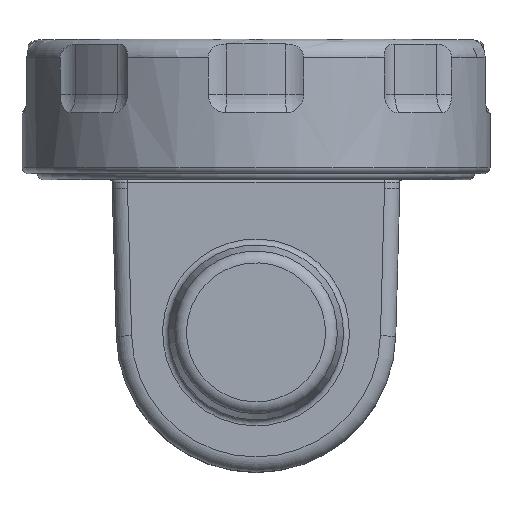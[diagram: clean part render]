
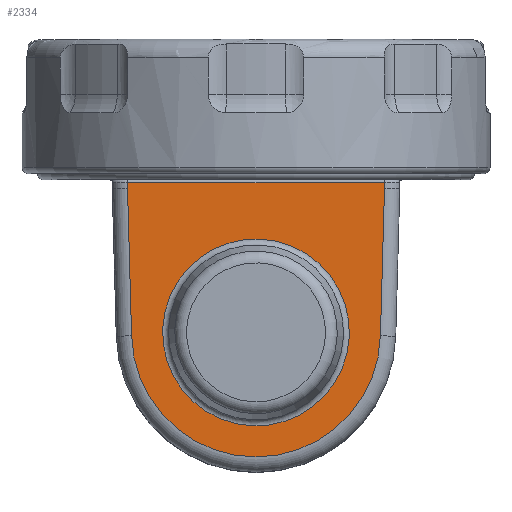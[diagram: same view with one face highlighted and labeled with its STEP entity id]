
A CAD part, top view. The second image highlights one B-rep face of the part: STEP entity #2334.
In plain terms, the highlighted planar face has unit normal (0, 0, 1).
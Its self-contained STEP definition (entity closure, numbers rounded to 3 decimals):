
#132=FACE_BOUND('',#410,.T.);
#151=PLANE('',#2635);
#266=FACE_OUTER_BOUND('',#409,.T.);
#409=EDGE_LOOP('',(#1907,#1908,#1909,#1910,#1911,#1912,#1913,#1914));
#410=EDGE_LOOP('',(#1915));
#454=LINE('',#3498,#566);
#456=LINE('',#3504,#568);
#460=LINE('',#3515,#572);
#529=LINE('',#4343,#641);
#530=LINE('',#4345,#642);
#531=LINE('',#4349,#643);
#532=LINE('',#4350,#644);
#566=VECTOR('',#2786,10.);
#568=VECTOR('',#2792,10.);
#572=VECTOR('',#2804,10.);
#641=VECTOR('',#3275,10.);
#642=VECTOR('',#3276,10.);
#643=VECTOR('',#3279,10.);
#644=VECTOR('',#3280,10.);
#803=CIRCLE('',#2624,15.267);
#811=CIRCLE('',#2636,20.35);
#863=VERTEX_POINT('',#3490);
#864=VERTEX_POINT('',#3494);
#866=VERTEX_POINT('',#3502);
#869=VERTEX_POINT('',#3514);
#1009=VERTEX_POINT('',#4323);
#1015=VERTEX_POINT('',#4342);
#1016=VERTEX_POINT('',#4344);
#1017=VERTEX_POINT('',#4346);
#1018=VERTEX_POINT('',#4348);
#1093=EDGE_CURVE('',#864,#863,#454,.T.);
#1096=EDGE_CURVE('',#864,#866,#456,.T.);
#1101=EDGE_CURVE('',#863,#869,#460,.T.);
#1313=EDGE_CURVE('',#1009,#1009,#803,.T.);
#1322=EDGE_CURVE('',#866,#1015,#529,.T.);
#1323=EDGE_CURVE('',#1016,#1015,#530,.T.);
#1324=EDGE_CURVE('',#1017,#1016,#811,.T.);
#1325=EDGE_CURVE('',#1018,#1017,#531,.T.);
#1326=EDGE_CURVE('',#1018,#869,#532,.T.);
#1907=ORIENTED_EDGE('',*,*,#1093,.F.);
#1908=ORIENTED_EDGE('',*,*,#1096,.T.);
#1909=ORIENTED_EDGE('',*,*,#1322,.T.);
#1910=ORIENTED_EDGE('',*,*,#1323,.F.);
#1911=ORIENTED_EDGE('',*,*,#1324,.F.);
#1912=ORIENTED_EDGE('',*,*,#1325,.F.);
#1913=ORIENTED_EDGE('',*,*,#1326,.T.);
#1914=ORIENTED_EDGE('',*,*,#1101,.F.);
#1915=ORIENTED_EDGE('',*,*,#1313,.F.);
#2334=ADVANCED_FACE('',(#266,#132),#151,.T.);
#2624=AXIS2_PLACEMENT_3D('',#4324,#3250,#3251);
#2635=AXIS2_PLACEMENT_3D('',#4341,#3273,#3274);
#2636=AXIS2_PLACEMENT_3D('',#4347,#3277,#3278);
#2786=DIRECTION('',(1.,0.,0.));
#2792=DIRECTION('',(0.,-1.,0.));
#2804=DIRECTION('',(0.,-1.,0.));
#3250=DIRECTION('center_axis',(0.,0.,
1.));
#3251=DIRECTION('ref_axis',(0.924,-0.383,0.));
#3273=DIRECTION('center_axis',(0.,0.,
1.));
#3274=DIRECTION('ref_axis',(0.,1.,0.));
#3275=DIRECTION('',(1.,0.,0.));
#3276=DIRECTION('',(-0.027,1.,0.));
#3277=DIRECTION('center_axis',(0.,0.,-1.));
#3278=DIRECTION('ref_axis',(0.,-1.,0.));
#3279=DIRECTION('',(-0.027,-1.,0.));
#3280=DIRECTION('',(1.,0.,0.));
#3490=CARTESIAN_POINT('',(21.,24.5,23.5));
#3494=CARTESIAN_POINT('',(-21.,24.5,23.5));
#3498=CARTESIAN_POINT('',(-10.5,24.5,23.5));
#3502=CARTESIAN_POINT('',(-21.,23.5,23.5));
#3504=CARTESIAN_POINT('',(-21.,25.,23.5));
#3514=CARTESIAN_POINT('',(21.,23.5,23.5));
#3515=CARTESIAN_POINT('',(21.,25.,23.5));
#4323=CARTESIAN_POINT('',(5.843,14.105,23.5));
#4324=CARTESIAN_POINT('Origin',(0.,0.,
23.5));
#4341=CARTESIAN_POINT('Origin',(0.,0.,
23.5));
#4342=CARTESIAN_POINT('',(-20.999,23.5,23.5));
#4343=CARTESIAN_POINT('',(-21.,23.5,23.5));
#4344=CARTESIAN_POINT('',(-20.342,-0.555,23.5));
#4345=CARTESIAN_POINT('',(-20.401,1.588,23.5));
#4346=CARTESIAN_POINT('',(20.342,-0.555,23.5));
#4347=CARTESIAN_POINT('Origin',(0.,0.,23.5));
#4348=CARTESIAN_POINT('',(20.999,23.5,23.5));
#4349=CARTESIAN_POINT('',(20.73,13.649,23.5));
#4350=CARTESIAN_POINT('',(-21.,23.5,23.5));
